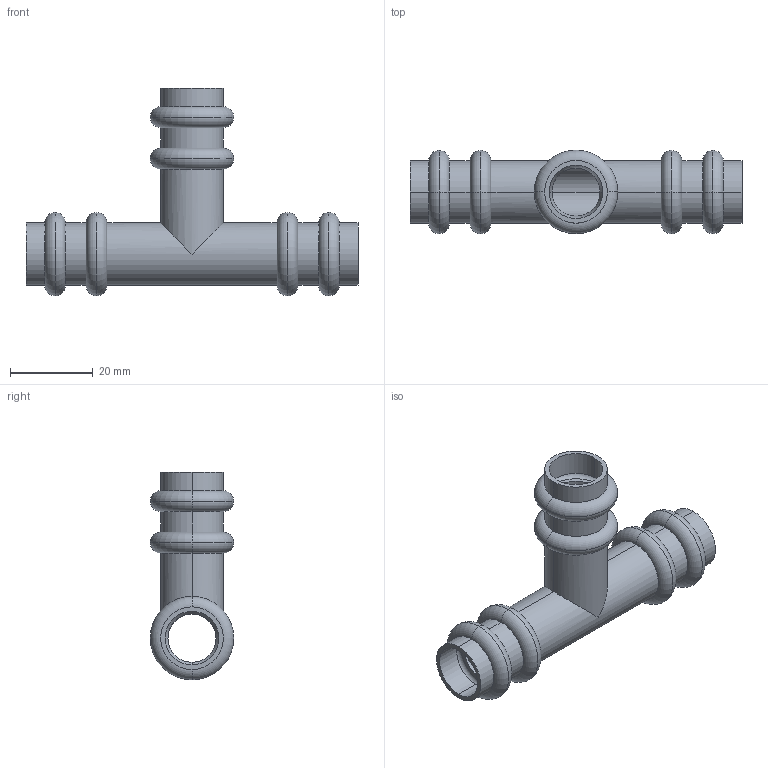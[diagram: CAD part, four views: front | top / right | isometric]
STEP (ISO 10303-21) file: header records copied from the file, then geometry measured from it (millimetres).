
FILE_DESCRIPTION(('starvars output'),'1');
FILE_NAME('cv20240422104945000011603.stp','10:49:46 2024/04/22',('Thomas Industrial Network Germany GmbH'),(' '),'Spatial InterOp 3D',' ',' ');
FILE_SCHEMA(('AUTOMOTIVE_DESIGN { 1 0 10303 214 3 1 1 }'));
Length unit declared in the file: millimetre
Products named in the file (1): 1
Bounding box: 80 x 20.1 x 50.05 mm (x, y, z)
Volume: 7827.1 mm3; surface area: 12319.1 mm2
Topology: 1 solids, 1 shells, 107 faces, 222 edges, 128 vertices
Faces by surface type: torus 48, cylinder 38, plane 15, cone 6
Entity records: 3760 total; most frequent: DIRECTION 614, CARTESIAN_POINT 458, ORIENTED_EDGE 444, AXIS2_PLACEMENT_3D 284, EDGE_CURVE 222, CIRCLE 168, VERTEX_POINT 128, EDGE_LOOP 122
